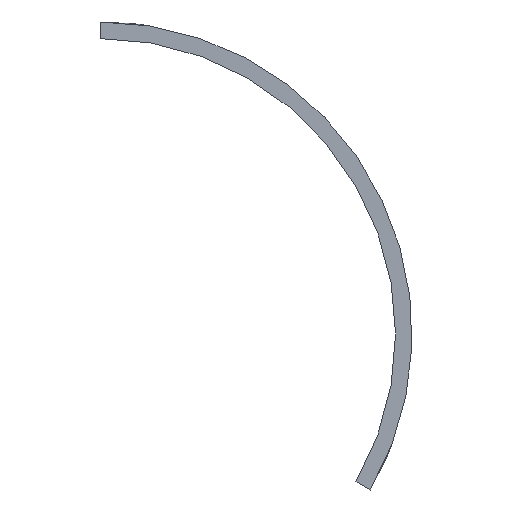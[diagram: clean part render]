
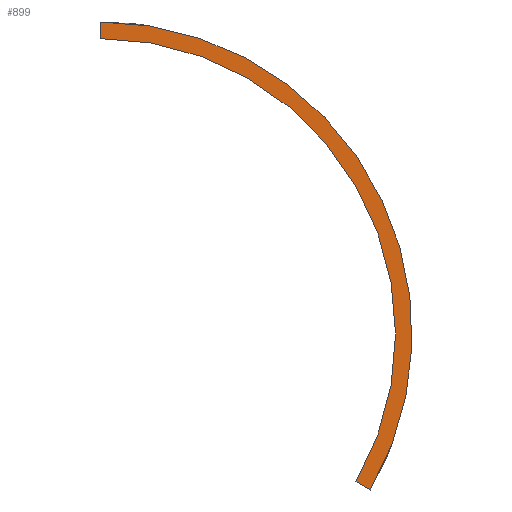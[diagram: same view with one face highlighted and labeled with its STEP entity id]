
A CAD part, left-side view. The second image highlights one B-rep face of the part: STEP entity #899.
In plain terms, the highlighted planar face has unit normal (-1, 0, 0).
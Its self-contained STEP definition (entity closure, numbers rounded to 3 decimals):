
#22 = VERTEX_POINT('',#23);
#23 = CARTESIAN_POINT('',(-18.,0.,113.));
#32 = CYLINDRICAL_SURFACE('',#33,113.);
#33 = AXIS2_PLACEMENT_3D('',#34,#35,#36);
#34 = CARTESIAN_POINT('',(-18.,0.,0.));
#35 = DIRECTION('',(-1.,-0.,-0.));
#36 = DIRECTION('',(-0.,0.,1.));
#44 = PLANE('',#45);
#45 = AXIS2_PLACEMENT_3D('',#46,#47,#48);
#46 = CARTESIAN_POINT('',(-18.,0.,107.));
#47 = DIRECTION('',(0.,-1.,0.));
#48 = DIRECTION('',(0.,0.,1.));
#86 = VERTEX_POINT('',#87);
#87 = CARTESIAN_POINT('',(-18.,-97.861,-56.5));
#101 = PLANE('',#102);
#102 = AXIS2_PLACEMENT_3D('',#103,#104,#105);
#103 = CARTESIAN_POINT('',(-18.,-97.861,-56.5));
#104 = DIRECTION('',(0.,-0.5,0.866));
#105 = DIRECTION('',(0.,0.866,0.5));
#113 = EDGE_CURVE('',#22,#86,#114,.T.);
#114 = SURFACE_CURVE('',#115,(#120,#127),.PCURVE_S1.);
#115 = CIRCLE('',#116,113.);
#116 = AXIS2_PLACEMENT_3D('',#117,#118,#119);
#117 = CARTESIAN_POINT('',(-18.,0.,0.));
#118 = DIRECTION('',(1.,0.,0.));
#119 = DIRECTION('',(-0.,0.,1.));
#120 = PCURVE('',#32,#121);
#121 = DEFINITIONAL_REPRESENTATION('',(#122),#126);
#122 = LINE('',#123,#124);
#123 = CARTESIAN_POINT('',(-0.,0.));
#124 = VECTOR('',#125,1.);
#125 = DIRECTION('',(-1.,0.));
#126 = ( GEOMETRIC_REPRESENTATION_CONTEXT(2) 
PARAMETRIC_REPRESENTATION_CONTEXT() REPRESENTATION_CONTEXT('2D SPACE',''
  ) );
#127 = PCURVE('',#128,#133);
#128 = PLANE('',#129);
#129 = AXIS2_PLACEMENT_3D('',#130,#131,#132);
#130 = CARTESIAN_POINT('',(-18.,-74.887,43.236));
#131 = DIRECTION('',(1.,0.,0.));
#132 = DIRECTION('',(-0.,0.,1.));
#133 = DEFINITIONAL_REPRESENTATION('',(#134),#138);
#134 = CIRCLE('',#135,113.);
#135 = AXIS2_PLACEMENT_2D('',#136,#137);
#136 = CARTESIAN_POINT('',(-43.236,-74.887));
#137 = DIRECTION('',(1.,0.));
#138 = ( GEOMETRIC_REPRESENTATION_CONTEXT(2) 
PARAMETRIC_REPRESENTATION_CONTEXT() REPRESENTATION_CONTEXT('2D SPACE',''
  ) );
#828 = VERTEX_POINT('',#829);
#829 = CARTESIAN_POINT('',(-18.,0.,107.));
#845 = CYLINDRICAL_SURFACE('',#846,107.);
#846 = AXIS2_PLACEMENT_3D('',#847,#848,#849);
#847 = CARTESIAN_POINT('',(-18.,0.,0.)
  );
#848 = DIRECTION('',(-1.,0.,0.));
#849 = DIRECTION('',(-0.,-0.866,-0.5));
#879 = EDGE_CURVE('',#828,#22,#880,.T.);
#880 = SURFACE_CURVE('',#881,(#885,#892),.PCURVE_S1.);
#881 = LINE('',#882,#883);
#882 = CARTESIAN_POINT('',(-18.,0.,107.));
#883 = VECTOR('',#884,1.);
#884 = DIRECTION('',(0.,0.,1.));
#885 = PCURVE('',#44,#886);
#886 = DEFINITIONAL_REPRESENTATION('',(#887),#891);
#887 = LINE('',#888,#889);
#888 = CARTESIAN_POINT('',(0.,0.));
#889 = VECTOR('',#890,1.);
#890 = DIRECTION('',(1.,0.));
#891 = ( GEOMETRIC_REPRESENTATION_CONTEXT(2) 
PARAMETRIC_REPRESENTATION_CONTEXT() REPRESENTATION_CONTEXT('2D SPACE',''
  ) );
#892 = PCURVE('',#128,#893);
#893 = DEFINITIONAL_REPRESENTATION('',(#894),#898);
#894 = LINE('',#895,#896);
#895 = CARTESIAN_POINT('',(63.764,-74.887));
#896 = VECTOR('',#897,1.);
#897 = DIRECTION('',(1.,0.));
#898 = ( GEOMETRIC_REPRESENTATION_CONTEXT(2) 
PARAMETRIC_REPRESENTATION_CONTEXT() REPRESENTATION_CONTEXT('2D SPACE',''
  ) );
#899 = ADVANCED_FACE('',(#900),#128,.F.);
#900 = FACE_BOUND('',#901,.F.);
#901 = EDGE_LOOP('',(#902,#903,#926,#952));
#902 = ORIENTED_EDGE('',*,*,#113,.T.);
#903 = ORIENTED_EDGE('',*,*,#904,.T.);
#904 = EDGE_CURVE('',#86,#905,#907,.T.);
#905 = VERTEX_POINT('',#906);
#906 = CARTESIAN_POINT('',(-18.,-92.665,-53.5));
#907 = SURFACE_CURVE('',#908,(#912,#919),.PCURVE_S1.);
#908 = LINE('',#909,#910);
#909 = CARTESIAN_POINT('',(-18.,-97.861,-56.5));
#910 = VECTOR('',#911,1.);
#911 = DIRECTION('',(0.,0.866,0.5));
#912 = PCURVE('',#128,#913);
#913 = DEFINITIONAL_REPRESENTATION('',(#914),#918);
#914 = LINE('',#915,#916);
#915 = CARTESIAN_POINT('',(-99.736,22.974));
#916 = VECTOR('',#917,1.);
#917 = DIRECTION('',(0.5,-0.866));
#918 = ( GEOMETRIC_REPRESENTATION_CONTEXT(2) 
PARAMETRIC_REPRESENTATION_CONTEXT() REPRESENTATION_CONTEXT('2D SPACE',''
  ) );
#919 = PCURVE('',#101,#920);
#920 = DEFINITIONAL_REPRESENTATION('',(#921),#925);
#921 = LINE('',#922,#923);
#922 = CARTESIAN_POINT('',(0.,0.));
#923 = VECTOR('',#924,1.);
#924 = DIRECTION('',(1.,0.));
#925 = ( GEOMETRIC_REPRESENTATION_CONTEXT(2) 
PARAMETRIC_REPRESENTATION_CONTEXT() REPRESENTATION_CONTEXT('2D SPACE',''
  ) );
#926 = ORIENTED_EDGE('',*,*,#927,.T.);
#927 = EDGE_CURVE('',#905,#828,#928,.T.);
#928 = SURFACE_CURVE('',#929,(#934,#945),.PCURVE_S1.);
#929 = CIRCLE('',#930,107.);
#930 = AXIS2_PLACEMENT_3D('',#931,#932,#933);
#931 = CARTESIAN_POINT('',(-18.,0.,0.)
  );
#932 = DIRECTION('',(-1.,0.,0.));
#933 = DIRECTION('',(-0.,-0.866,-0.5));
#934 = PCURVE('',#128,#935);
#935 = DEFINITIONAL_REPRESENTATION('',(#936),#944);
#936 = ( BOUNDED_CURVE() B_SPLINE_CURVE(2,(#937,#938,#939,#940,#941,#942
,#943),.UNSPECIFIED.,.T.,.F.) B_SPLINE_CURVE_WITH_KNOTS((1,2,2,2,2,1),(
    -2.094,0.,2.094,4.189,6.283,
8.378),.UNSPECIFIED.) CURVE() GEOMETRIC_REPRESENTATION_ITEM() 
RATIONAL_B_SPLINE_CURVE((1.,0.5,1.,0.5,1.,0.5,1.)) REPRESENTATION_ITEM(
  '') );
#937 = CARTESIAN_POINT('',(-96.736,17.777));
#938 = CARTESIAN_POINT('',(63.764,110.442));
#939 = CARTESIAN_POINT('',(63.764,-74.887));
#940 = CARTESIAN_POINT('',(63.764,-260.217));
#941 = CARTESIAN_POINT('',(-96.736,-167.552));
#942 = CARTESIAN_POINT('',(-257.236,-74.887));
#943 = CARTESIAN_POINT('',(-96.736,17.777));
#944 = ( GEOMETRIC_REPRESENTATION_CONTEXT(2) 
PARAMETRIC_REPRESENTATION_CONTEXT() REPRESENTATION_CONTEXT('2D SPACE',''
  ) );
#945 = PCURVE('',#845,#946);
#946 = DEFINITIONAL_REPRESENTATION('',(#947),#951);
#947 = LINE('',#948,#949);
#948 = CARTESIAN_POINT('',(0.,0.));
#949 = VECTOR('',#950,1.);
#950 = DIRECTION('',(1.,0.));
#951 = ( GEOMETRIC_REPRESENTATION_CONTEXT(2) 
PARAMETRIC_REPRESENTATION_CONTEXT() REPRESENTATION_CONTEXT('2D SPACE',''
  ) );
#952 = ORIENTED_EDGE('',*,*,#879,.T.);
